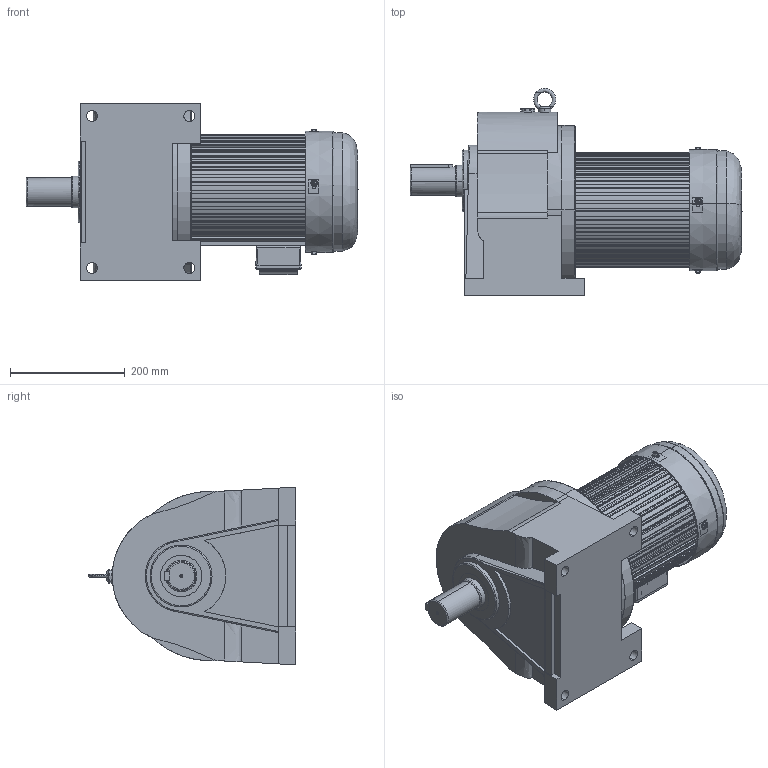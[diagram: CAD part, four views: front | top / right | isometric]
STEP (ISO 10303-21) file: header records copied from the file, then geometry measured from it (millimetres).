
FILE_DESCRIPTION (( 'STEP AP214' ), '1' );
FILE_NAME ('CH50-3700W去字改颜色.STEP', '2024-01-10T03:07:20', ( '微软用户' ), ( '微软中国' ), 'SwSTEP 2.0', 'SolidWorks 2014', '' );
FILE_SCHEMA (( 'AUTOMOTIVE_DESIGN' ));
Length unit declared in the file: millimetre
Products named in the file (9): 180綴傷裔; 5HP萇儂俋褲; CH50; CH50-3700W去字改颜色; 諉盄碟蹟佪; 奻裔(臏ㄘ; 菁碟ㄗ臏ㄘ; 瑞珔欶蹟佪; 210瑞珔欶
Assembly tree (14 placements, depth 2):
  CH50-3700W去字改颜色
    CH50
    5HP萇儂俋褲
    180綴傷裔
    210瑞珔欶
    瑞珔欶蹟佪  x4
    菁碟ㄗ臏ㄘ
    奻裔(臏ㄘ
    諉盄碟蹟佪  x4
Bounding box: 579.37 x 361.6 x 310 mm (x, y, z)
Volume: 15568575.5 mm3; surface area: 1287105.9 mm2
Topology: 23 solids, 649 shells, 2198 faces, 8021 edges, 6532 vertices
Faces by surface type: plane 1140, cylinder 810, bspline 158, cone 90
Entity records: 105972 total; most frequent: CARTESIAN_POINT 49555, ORIENTED_EDGE 10448, DIRECTION 9876, EDGE_CURVE 7083, VERTEX_POINT 5917, LINE 4168, VECTOR 4168, AXIS2_PLACEMENT_3D 2854
